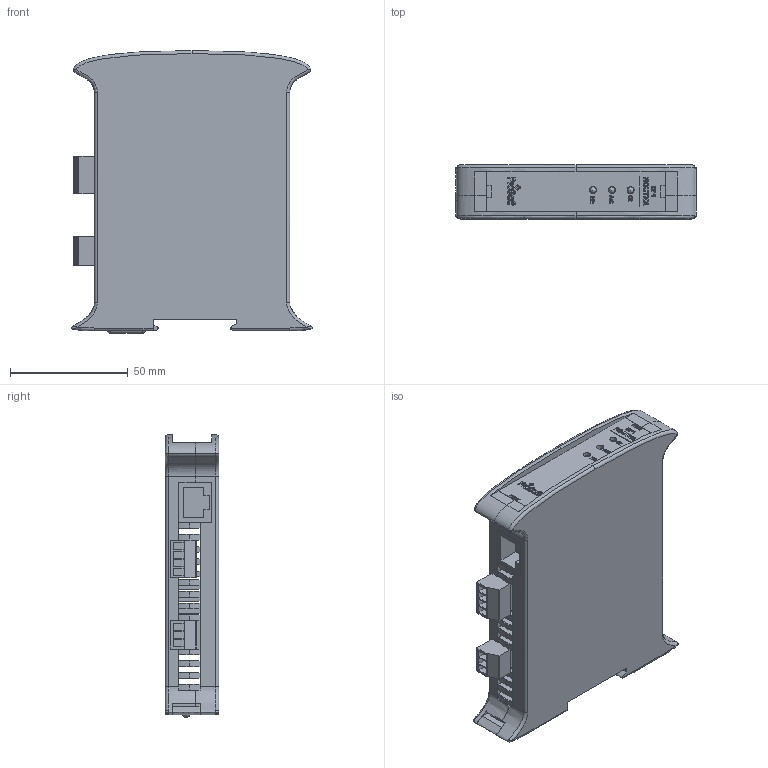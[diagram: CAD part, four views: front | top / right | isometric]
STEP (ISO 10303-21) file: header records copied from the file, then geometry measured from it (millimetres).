
FILE_DESCRIPTION (( 'STEP AP214' ), '1' );
FILE_NAME ('D127-003 PLX51-DF1-ENI R 1.0.STEP', '2022-08-03T17:21:58', ( '' ), ( '' ), 'SwSTEP 2.0', 'SolidWorks 2020', '' );
FILE_SCHEMA (( 'AUTOMOTIVE_DESIGN' ));
Length unit declared in the file: millimetre
Products named in the file (11): ethernetport_1; enclosure_bottom; enclosure_1; plugs_4_1_1; Light_1; faceplate_DF1 Router; clip_1; Part1_1; plugs_1; dipswitch_1; D127-003 PLX51-DF1-ENI R 1.0
Assembly tree (36 placements, depth 2):
  D127-003 PLX51-DF1-ENI R 1.0
    faceplate_DF1 Router
    enclosure_bottom
    enclosure_1
    Part1_1  x25
    ethernetport_1
    dipswitch_1
    plugs_1
    plugs_4_1_1
    clip_1
    Light_1  x3
Bounding box: 102.12 x 22.8 x 120 mm (x, y, z)
Volume: 82052.3 mm3; surface area: 63943.5 mm2
Topology: 69 solids, 69 shells, 1229 faces, 3006 edges, 1961 vertices
Faces by surface type: plane 1019, bspline 129, cylinder 74, torus 4, sphere 3
Full cylindrical faces by diameter (mm): 2.5 x3, 3 x3
Entity records: 40780 total; most frequent: CARTESIAN_POINT 17354, ORIENTED_EDGE 3416, DIRECTION 2628, EDGE_CURVE 1708, LINE 1386, VECTOR 1386, VERTEX_POINT 1132, EDGE_LOOP 738
